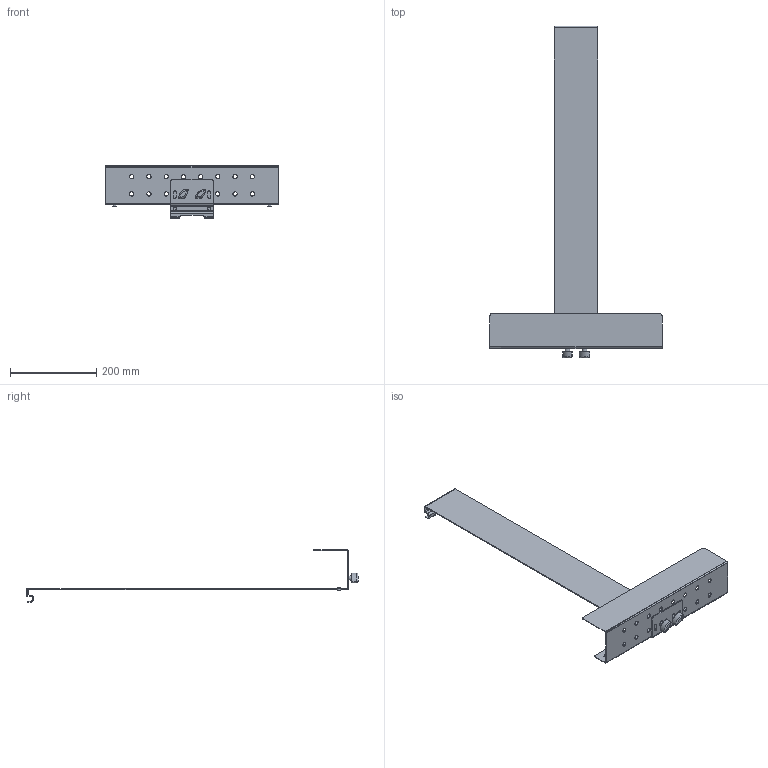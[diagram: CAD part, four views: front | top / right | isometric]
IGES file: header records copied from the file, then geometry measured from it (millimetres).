
Global section: file name: Półka na kabine prysznicową LOGAN 40 cm,22; native system: HAutodesk Inventor 2018; preprocessor: unknown; author: Verical; date: 20210519.145155; units: millimetre
Bounding box: 400 x 771.4 x 121 mm (x, y, z)
Volume: 300140.5 mm3; surface area: 323316.5 mm2
Topology: 1 solids, 3 shells, 208 faces, 516 edges, 310 vertices
Faces by surface type: bspline 208
